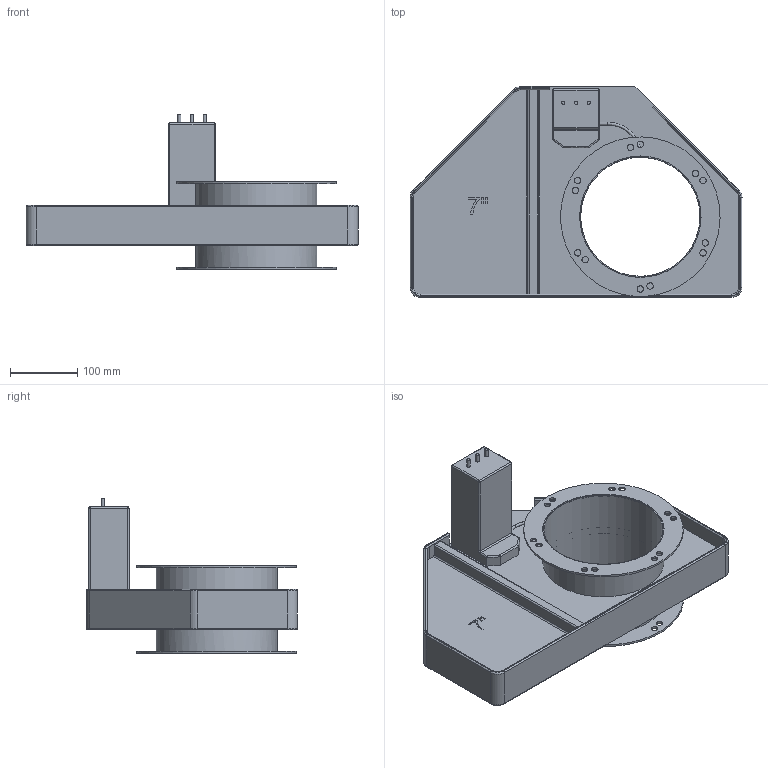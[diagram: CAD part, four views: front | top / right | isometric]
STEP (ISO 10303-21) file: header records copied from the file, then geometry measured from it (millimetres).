
FILE_DESCRIPTION( ('This file contains a STEP AP42 implementation' ,'as created by ZW3D STEP Interface translator.') ,'2;1' );
FILE_NAME( '3D Model-HO207 Body with drive.stp' ,'20 629.122616', (''), ('ZWCAD Software Co.'), 'Version 1.0', 'ZW3D to STEP translator', '' );
FILE_SCHEMA(('AUTOMOTIVE_DESIGN'));
Length unit declared in the file: millimetre
Products named in the file (1): 0
Bounding box: 495.47 x 314.86 x 230.3 mm (x, y, z)
Volume: 2654851.7 mm3; surface area: 635212.2 mm2
Topology: 4 solids, 4 shells, 606 faces, 1645 edges, 1182 vertices
Faces by surface type: bspline 606
Entity records: 20199 total; most frequent: CARTESIAN_POINT 9960, ORIENTED_EDGE 3088, EDGE_CURVE 1544, B_SPLINE_CURVE_WITH_KNOTS 1336, VERTEX_POINT 1001, EDGE_LOOP 715, FACE_OUTER_BOUND 606, ADVANCED_FACE 606
